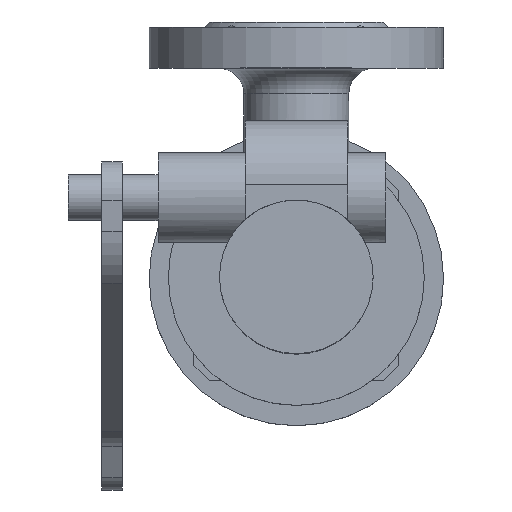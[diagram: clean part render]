
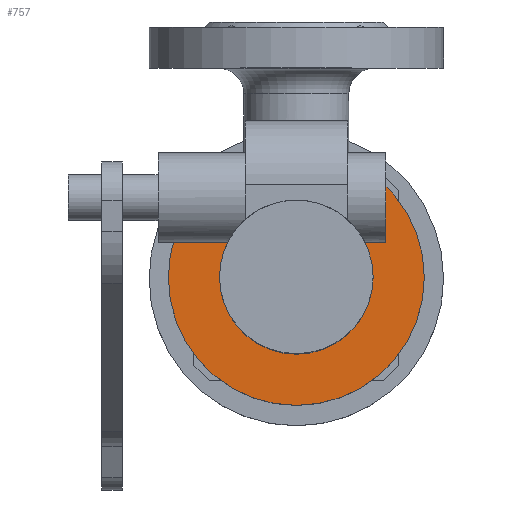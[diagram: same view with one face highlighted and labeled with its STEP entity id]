
A CAD part, top view. The second image highlights one B-rep face of the part: STEP entity #757.
In plain terms, the highlighted planar face has unit normal (0, 0, 1).
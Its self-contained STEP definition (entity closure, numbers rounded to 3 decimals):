
#757=ADVANCED_FACE('',(#1676,#1678),#1680,.T.);
#1676=FACE_BOUND('',#1677,.T.);
#1677=EDGE_LOOP('',(#2402));
#1678=FACE_BOUND('',#1679,.T.);
#1679=EDGE_LOOP('',(#2403));
#1680=PLANE('',#1681);
#1681=AXIS2_PLACEMENT_3D('',#1682,#1683,#1684);
#1682=CARTESIAN_POINT('',(0.,0.,279.));
#1683=DIRECTION('',(0.,0.,1.));
#1684=DIRECTION('',(0.,1.,0.));
#2402=ORIENTED_EDGE('',*,*,#2829,.F.);
#2403=ORIENTED_EDGE('',*,*,#2830,.T.);
#2829=EDGE_CURVE('',#3271,#3271,#3272,.T.);
#2830=EDGE_CURVE('',#3273,#3273,#3274,.T.);
#3271=VERTEX_POINT('',#5598);
#3272=CIRCLE('',#5599,50.);
#3273=VERTEX_POINT('',#5603);
#3274=CIRCLE('',#5604,30.);
#5598=CARTESIAN_POINT('',(0.,50.,279.));
#5599=AXIS2_PLACEMENT_3D('',#5600,#5601,#5602);
#5600=CARTESIAN_POINT('',(0.,0.,279.));
#5601=DIRECTION('',(0.,0.,-1.));
#5602=DIRECTION('',(0.,1.,0.));
#5603=CARTESIAN_POINT('',(0.,30.,279.));
#5604=AXIS2_PLACEMENT_3D('',#5605,#5606,#5607);
#5605=CARTESIAN_POINT('',(0.,0.,279.));
#5606=DIRECTION('',(0.,0.,-1.));
#5607=DIRECTION('',(0.,1.,0.));
